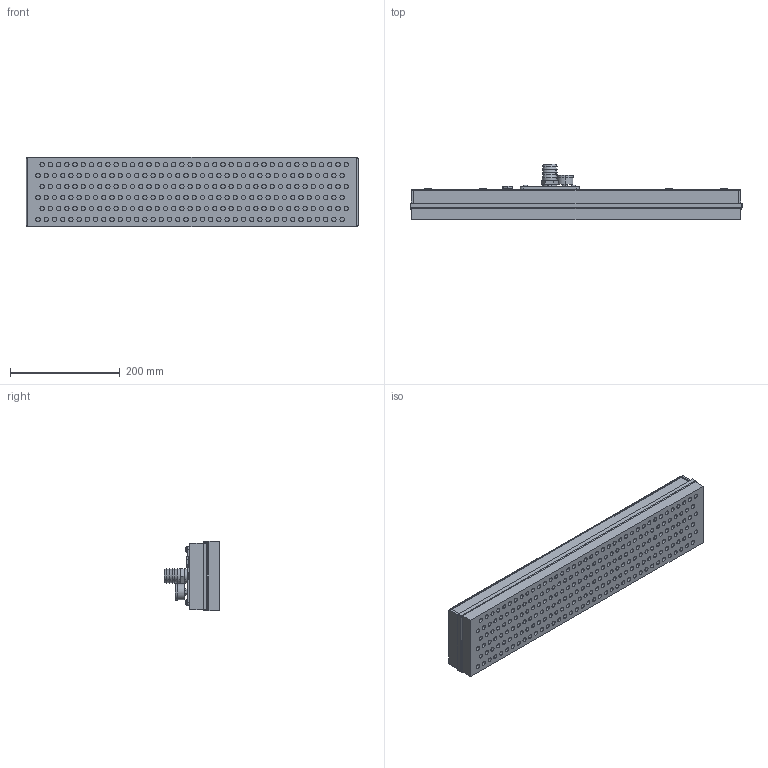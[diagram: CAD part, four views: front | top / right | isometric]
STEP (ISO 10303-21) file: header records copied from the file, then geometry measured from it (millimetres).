
FILE_DESCRIPTION (( 'STEP AP214' ), '1' );
FILE_NAME ('3-9-20291.STEP', '2012-08-30T08:27:01', ( 'cad' ), ( 'Microsoft' ), 'SwSTEP 2.0', 'SolidWorks 2012', '' );
FILE_SCHEMA (( 'AUTOMOTIVE_DESIGN' ));
Length unit declared in the file: millimetre
Products named in the file (1): 3-9-20291
Bounding box: 606 x 102 x 126 mm (x, y, z)
Volume: 3903131.8 mm3; surface area: 399401.1 mm2
Topology: 1 solids, 1 shells, 1085 faces, 2328 edges, 1514 vertices
Faces by surface type: cylinder 549, plane 468, cone 42, sphere 12, torus 8, bspline 6
Entity records: 39576 total; most frequent: DIRECTION 5662, CARTESIAN_POINT 5510, ORIENTED_EDGE 4640, EDGE_CURVE 2320, AXIS2_PLACEMENT_3D 2306, VERTEX_POINT 1514, EDGE_LOOP 1362, CIRCLE 1226
